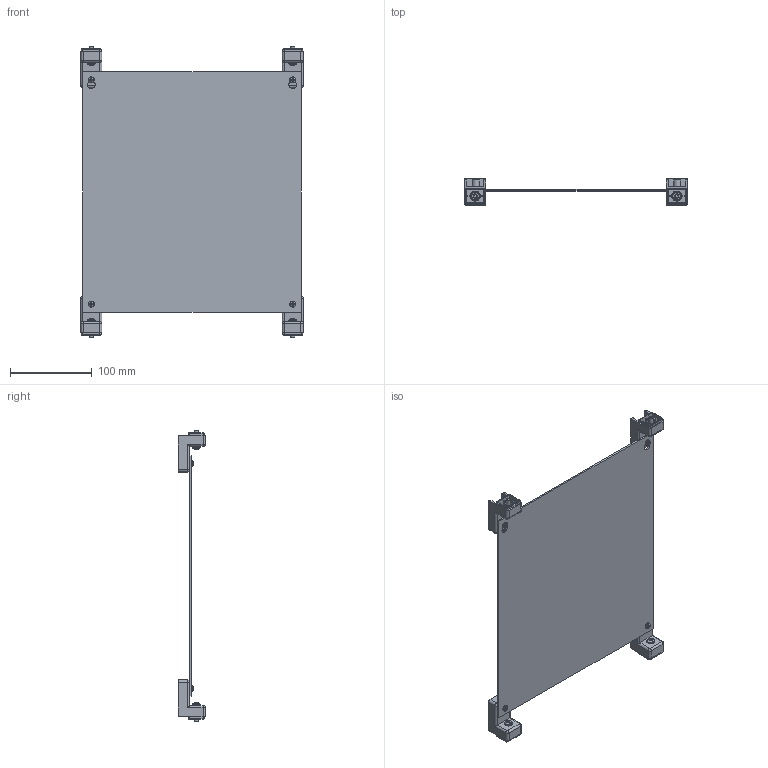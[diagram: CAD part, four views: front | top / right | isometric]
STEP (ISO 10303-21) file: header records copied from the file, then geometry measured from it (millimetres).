
FILE_DESCRIPTION(/* description */ (''),/* implementation_level */ '2;1');
FILE_NAME(/* name */ '4005017.stp',/* time_stamp */ '2019-03-01T17:07:18+01:00',/* author */ (''),/* organization */ (''),/* preprocessor_version */ 'ST-DEVELOPER v16.7',/* originating_system */ 'SIEMENS PLM Software NX 12.0',/* authorisation */ '');
FILE_SCHEMA (('AUTOMOTIVE_DESIGN { 1 0 10303 214 3 1 1 1 }'));
Length unit declared in the file: millimetre
Products named in the file (1): bsom23CC53FBq281
Bounding box: 272 x 33 x 356 mm (x, y, z)
Volume: 203436.2 mm3; surface area: 198103 mm2
Topology: 13 solids, 13 shells, 756 faces, 1814 edges, 1084 vertices
Faces by surface type: plane 314, cylinder 194, bspline 96, torus 72, sphere 48, cone 32
Full cylindrical faces by diameter (mm): 3.4 x4, 3.75 x4, 4 x4, 4.3 x2, 5 x4, 5.2 x4, 7.2 x4, 8.5 x4, 9.3 x4, 9.5 x4
Entity records: 23083 total; most frequent: CARTESIAN_POINT 6257, DIRECTION 3526, ORIENTED_EDGE 3376, EDGE_CURVE 1688, AXIS2_PLACEMENT_3D 1349, VERTEX_POINT 1060, EDGE_LOOP 874, LINE 828
